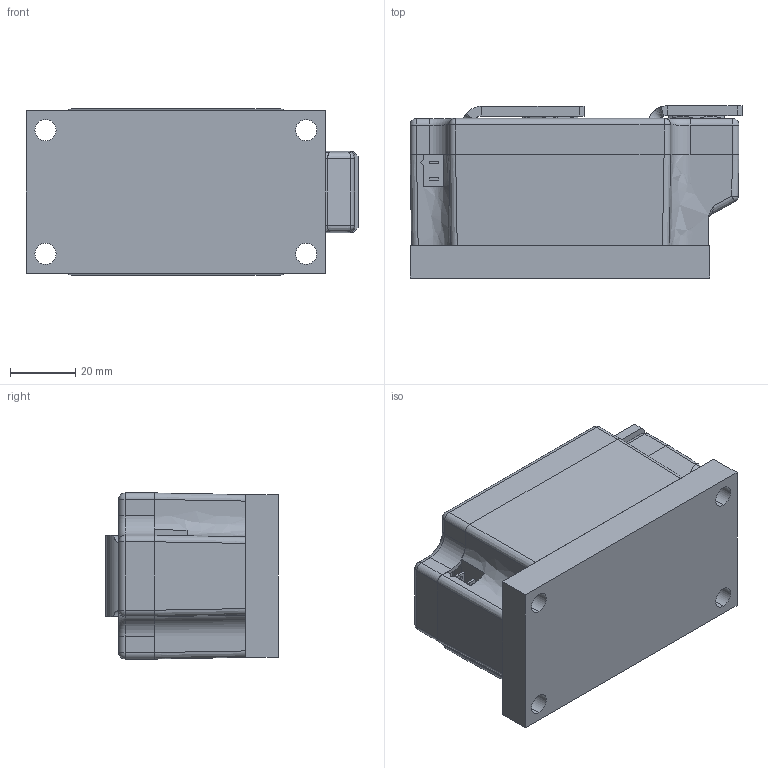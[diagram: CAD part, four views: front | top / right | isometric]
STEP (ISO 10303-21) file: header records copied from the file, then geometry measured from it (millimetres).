
FILE_DESCRIPTION (( 'STEP AP214' ), '1' );
FILE_NAME ('MTD4.STEP', '2021-02-03T08:35:35', ( '' ), ( '' ), 'SwSTEP 2.0', 'SolidWorks 2018', '' );
FILE_SCHEMA (( 'AUTOMOTIVE_DESIGN' ));
Length unit declared in the file: millimetre
Products named in the file (1): MTD4
Bounding box: 101.93 x 52.93 x 51 mm (x, y, z)
Volume: 106341.8 mm3; surface area: 64665.2 mm2
Topology: 10 solids, 10 shells, 463 faces, 1235 edges, 790 vertices
Faces by surface type: plane 285, cylinder 118, bspline 36, cone 10, sphere 10, torus 4
Entity records: 23525 total; most frequent: CARTESIAN_POINT 6951, ORIENTED_EDGE 2454, DIRECTION 2189, EDGE_CURVE 1227, VERTEX_POINT 790, VECTOR 773, LINE 773, AXIS2_PLACEMENT_3D 708
